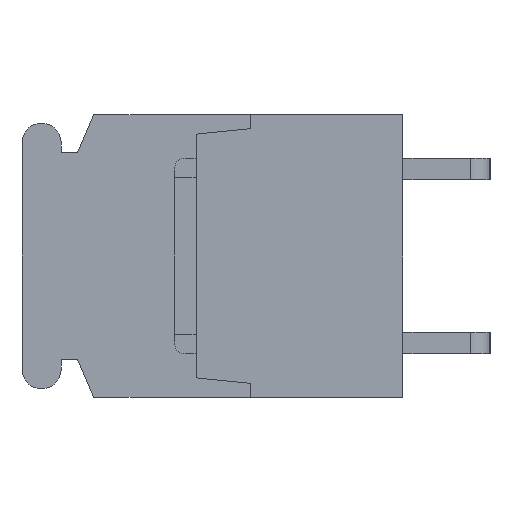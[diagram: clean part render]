
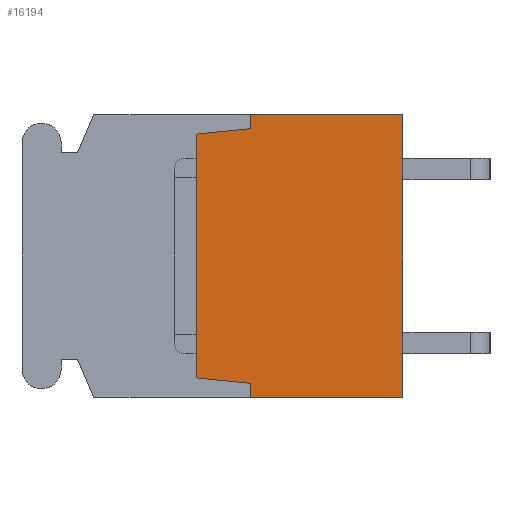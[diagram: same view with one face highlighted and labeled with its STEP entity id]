
A CAD part, left-side view. The second image highlights one B-rep face of the part: STEP entity #16194.
In plain terms, the highlighted planar face has unit normal (-1, 0, 0).
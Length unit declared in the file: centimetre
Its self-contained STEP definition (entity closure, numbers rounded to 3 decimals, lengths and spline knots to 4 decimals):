
#1023=VERTEX_POINT('',#20699);
#1026=VERTEX_POINT('',#20704);
#1533=VERTEX_POINT('',#22688);
#1577=VERTEX_POINT('',#22797);
#2234=VERTEX_POINT('',#25111);
#2235=VERTEX_POINT('',#25113);
#2236=VERTEX_POINT('',#25115);
#2237=VERTEX_POINT('',#25117);
#2651=VECTOR('',#17222,1.);
#3219=VECTOR('',#18096,1.);
#3273=VECTOR('',#18166,1.);
#3978=VECTOR('',#19966,1.);
#3979=VECTOR('',#19967,1.);
#3980=VECTOR('',#19968,1.);
#3981=VECTOR('',#19969,1.);
#3982=VECTOR('',#19970,1.);
#4459=LINE('',#20705,#2651);
#5027=LINE('',#22687,#3219);
#5081=LINE('',#22798,#3273);
#5786=LINE('',#25110,#3978);
#5787=LINE('',#25112,#3979);
#5788=LINE('',#25114,#3980);
#5789=LINE('',#25116,#3981);
#5790=LINE('',#25118,#3982);
#6283=EDGE_CURVE('',#1026,#1023,#4459,.T.);
#7009=EDGE_CURVE('',#1023,#1533,#5027,.T.);
#7065=EDGE_CURVE('',#1577,#1026,#5081,.T.);
#8098=EDGE_CURVE('',#2234,#1577,#5786,.T.);
#8099=EDGE_CURVE('',#2235,#2234,#5787,.T.);
#8100=EDGE_CURVE('',#2236,#2235,#5788,.T.);
#8101=EDGE_CURVE('',#2237,#2236,#5789,.T.);
#8102=EDGE_CURVE('',#1533,#2237,#5790,.T.);
#12408=ORIENTED_EDGE('',*,*,#6283,.F.);
#12409=ORIENTED_EDGE('',*,*,#7065,.F.);
#12410=ORIENTED_EDGE('',*,*,#8098,.F.);
#12411=ORIENTED_EDGE('',*,*,#8099,.F.);
#12412=ORIENTED_EDGE('',*,*,#8100,.F.);
#12413=ORIENTED_EDGE('',*,*,#8101,.F.);
#12414=ORIENTED_EDGE('',*,*,#8102,.F.);
#12415=ORIENTED_EDGE('',*,*,#7009,.F.);
#14242=EDGE_LOOP('',(#12408,#12409,#12410,#12411,#12412,#12413,#12414,#12415));
#15268=FACE_BOUND('',#14242,.T.);
#16194=ADVANCED_FACE('',(#15268),#16919,.F.);
#16919=PLANE('',#27600);
#17222=DIRECTION('',(0.,0.,-1.));
#18096=DIRECTION('',(0.,1.,0.));
#18166=DIRECTION('',(0.,-1.,0.));
#19965=DIRECTION('',(1.,0.,0.));
#19966=DIRECTION('',(0.,0.,1.));
#19967=DIRECTION('',(0.,-0.995,0.1));
#19968=DIRECTION('',(0.,0.,1.));
#19969=DIRECTION('',(0.,0.995,0.1));
#19970=DIRECTION('',(0.,0.,1.));
#20699=CARTESIAN_POINT('',(-1.84,0.,-0.65));
#20704=CARTESIAN_POINT('',(-1.84,0.,0.65));
#20705=CARTESIAN_POINT('',(-1.84,0.,0.65));
#22687=CARTESIAN_POINT('',(-1.84,0.,-0.65));
#22688=CARTESIAN_POINT('',(-1.84,0.7,-0.65));
#22797=CARTESIAN_POINT('',(-1.84,0.7,0.65));
#22798=CARTESIAN_POINT('',(-1.84,0.7,0.65));
#25109=CARTESIAN_POINT('',(-1.84,0.4626,0.));
#25110=CARTESIAN_POINT('',(-1.84,0.7,0.585));
#25111=CARTESIAN_POINT('',(-1.84,0.7,0.585));
#25112=CARTESIAN_POINT('',(-1.84,0.95,0.56));
#25113=CARTESIAN_POINT('',(-1.84,0.95,0.56));
#25114=CARTESIAN_POINT('',(-1.84,0.95,-0.56));
#25115=CARTESIAN_POINT('',(-1.84,0.95,-0.56));
#25116=CARTESIAN_POINT('',(-1.84,0.7,-0.585));
#25117=CARTESIAN_POINT('',(-1.84,0.7,-0.585));
#25118=CARTESIAN_POINT('',(-1.84,0.7,-0.65));
#27600=AXIS2_PLACEMENT_3D('',#25109,#19965,$);
